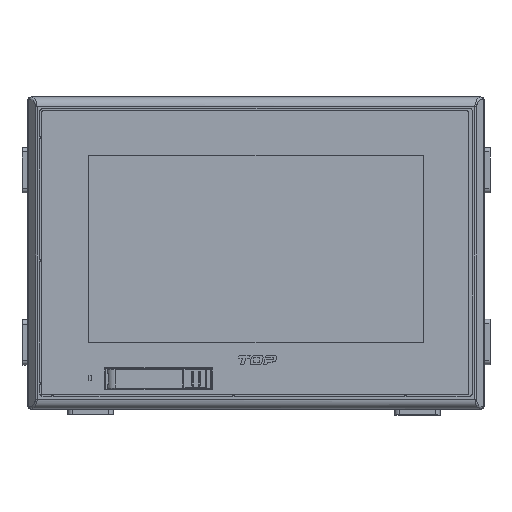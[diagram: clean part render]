
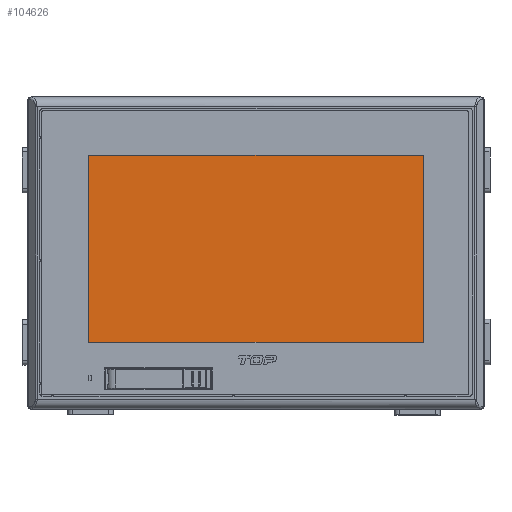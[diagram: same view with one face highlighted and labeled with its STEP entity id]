
A CAD part, top view. The second image highlights one B-rep face of the part: STEP entity #104626.
In plain terms, the highlighted planar face has unit normal (0, 0, 1).
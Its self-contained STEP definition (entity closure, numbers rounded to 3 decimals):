
#103167=DIRECTION('',(0.,1.,0.));
#103168=VECTOR('',#103167,87.);
#103169=CARTESIAN_POINT('',(-77.75,-40.,-0.27));
#103170=LINE('',#103169,#103168);
#103171=DIRECTION('',(1.,0.,0.));
#103172=VECTOR('',#103171,155.5);
#103173=CARTESIAN_POINT('',(-77.75,47.,-0.27));
#103174=LINE('',#103173,#103172);
#103175=DIRECTION('',(0.,-1.,0.));
#103176=VECTOR('',#103175,87.);
#103177=CARTESIAN_POINT('',(77.75,47.,-0.27));
#103178=LINE('',#103177,#103176);
#103179=DIRECTION('',(-1.,0.,0.));
#103180=VECTOR('',#103179,155.5);
#103181=CARTESIAN_POINT('',(77.75,-40.,-0.27));
#103182=LINE('',#103181,#103180);
#103295=CARTESIAN_POINT('',(-77.75,47.,-0.27));
#103296=VERTEX_POINT('',#103295);
#103297=CARTESIAN_POINT('',(-77.75,-40.,-0.27));
#103298=VERTEX_POINT('',#103297);
#103299=CARTESIAN_POINT('',(77.75,47.,-0.27));
#103300=VERTEX_POINT('',#103299);
#103301=CARTESIAN_POINT('',(77.75,-40.,-0.27));
#103302=VERTEX_POINT('',#103301);
#104615=CARTESIAN_POINT('',(0.,0.,-0.27));
#104616=DIRECTION('',(0.,0.,1.));
#104617=DIRECTION('',(1.,0.,0.));
#104618=AXIS2_PLACEMENT_3D('',#104615,#104616,#104617);
#104619=PLANE('',#104618);
#104620=ORIENTED_EDGE('',*,*,#104567,.T.);
#104621=ORIENTED_EDGE('',*,*,#104582,.T.);
#104622=ORIENTED_EDGE('',*,*,#104596,.T.);
#104623=ORIENTED_EDGE('',*,*,#104609,.T.);
#104624=EDGE_LOOP('',(#104620,#104621,#104622,#104623));
#104625=FACE_OUTER_BOUND('',#104624,.F.);
#104626=ADVANCED_FACE('',(#104625),#104619,.T.);
#104567=EDGE_CURVE('',#103298,#103296,#103170,.T.);
#104582=EDGE_CURVE('',#103296,#103300,#103174,.T.);
#104596=EDGE_CURVE('',#103300,#103302,#103178,.T.);
#104609=EDGE_CURVE('',#103302,#103298,#103182,.T.);
